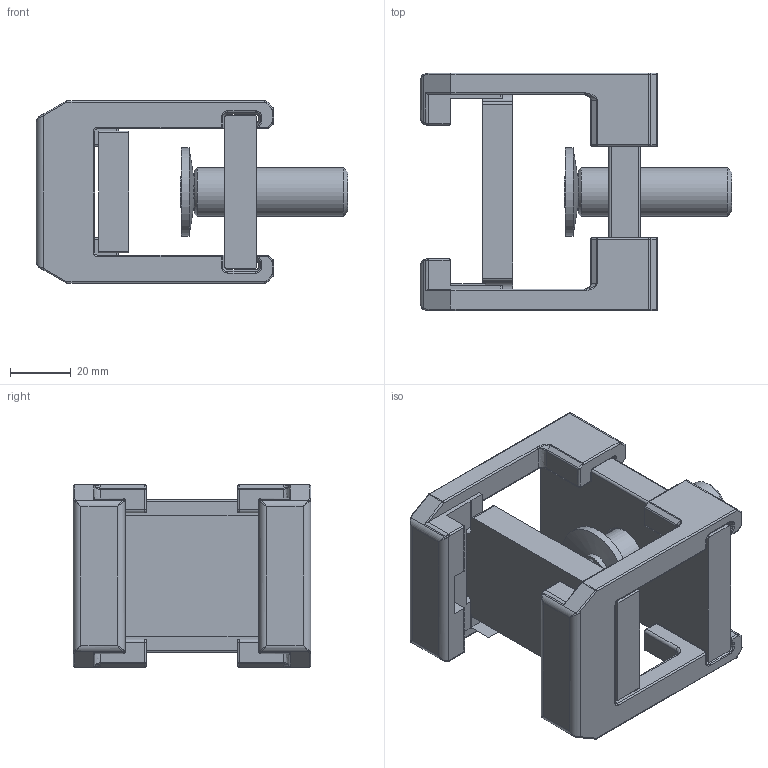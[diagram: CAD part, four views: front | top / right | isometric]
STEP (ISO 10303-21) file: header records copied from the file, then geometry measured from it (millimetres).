
FILE_DESCRIPTION (( 'STEP AP203' ), '1' );
FILE_NAME ('54034.STEP', '2021-08-16T01:39:12', ( '' ), ( '' ), 'SwSTEP 2.0', 'SolidWorks 2017', '' );
FILE_SCHEMA (( 'CONFIG_CONTROL_DESIGN' ));
Products named in the file (2): 54034
Bounding box: 102.4 x 78 x 60 mm (x, y, z)
Volume: 128944 mm3; surface area: 45673.8 mm2
Topology: 6 solids, 6 shells, 869 faces, 2217 edges, 1345 vertices
Faces by surface type: plane 386, cylinder 252, bspline 132, sphere 42, torus 40, cone 17
Full cylindrical faces by diameter (mm): 8.5 x1, 10 x2, 16 x1, 29 x1
Entity records: 38093 total; most frequent: CARTESIAN_POINT 18736, ORIENTED_EDGE 4326, DIRECTION 3520, EDGE_CURVE 2163, VERTEX_POINT 1329, AXIS2_PLACEMENT_3D 1201, VECTOR 1118, LINE 1118
